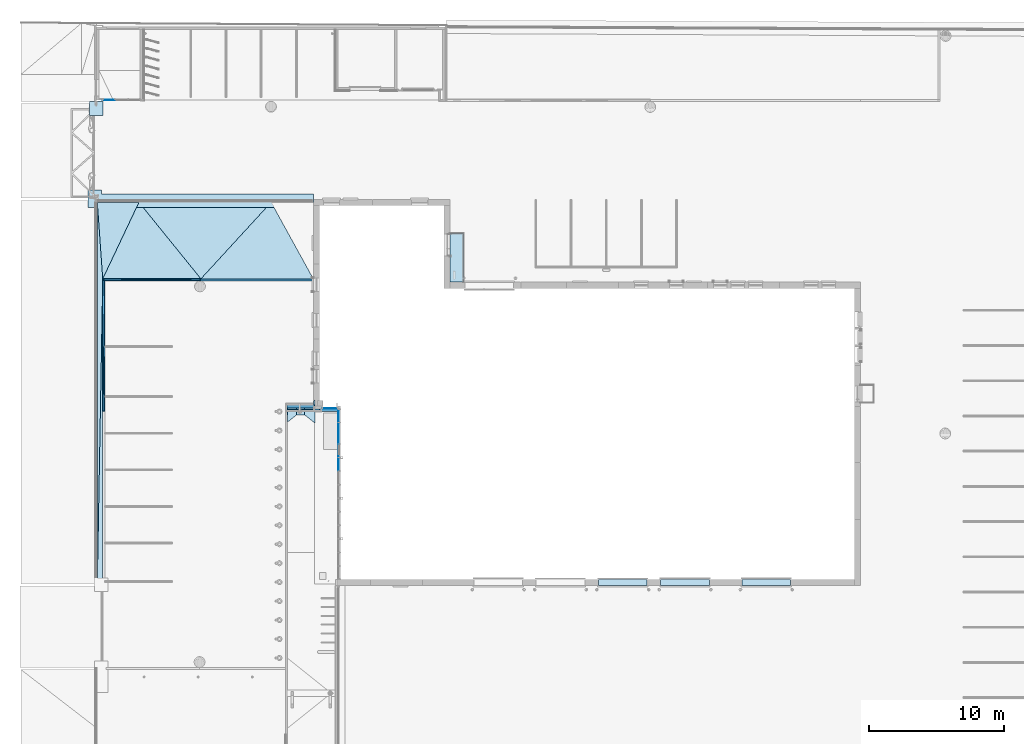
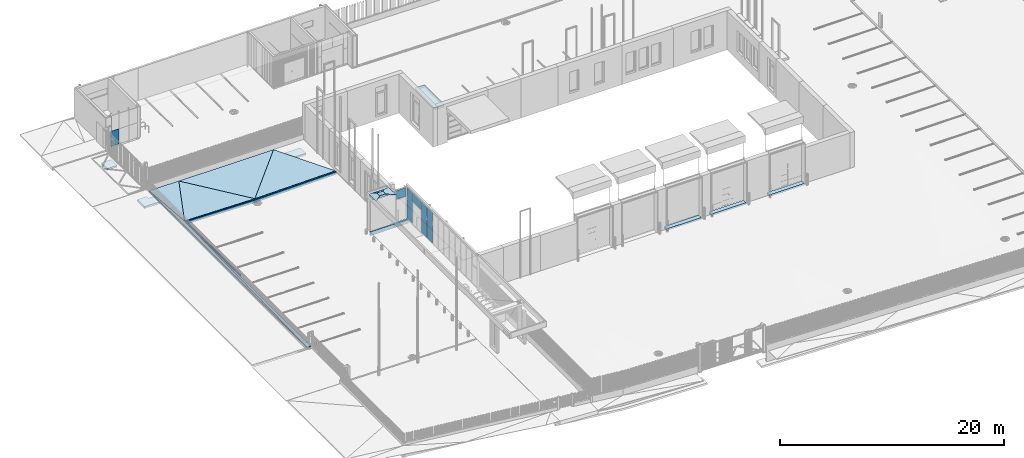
# One storey, part 9 of 77: 24 slabs, 6 plates, 11 elements without a shape of their own.
"""IFC2X3 building model written with IfcOpenShell, lengths in millimetres."""

from ifc_helpers import new_model, entity, si_unit, converted_unit, derived_unit, direction, frame, frame_2d, origin, origin_2d_with_axis, place, context, subcontext, project, spatial, polyline, rectangle, outline, extrude, clip, halfspace, faceted_brep, source, transform, mapped, material, material_list, layer, layer_set, layer_usage, type_object, type_shapes, element, aggregate, save


model = new_model("IFC2X3")

# Units and contexts
model_context = context("Model", 3, precision=0.01, world=origin(), true_north=direction((6.12303176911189e-17, 1.0)))
body_context = subcontext(model_context, "Body", "Model", "MODEL_VIEW")
ifc_project = project(units=[si_unit("LENGTHUNIT", "METRE", prefix="MILLI"), si_unit("AREAUNIT", "SQUARE_METRE"), si_unit("VOLUMEUNIT", "CUBIC_METRE"), converted_unit("PLANEANGLEUNIT", "DEGREE", entity("IfcRatioMeasure", 0.0174532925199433), si_unit("PLANEANGLEUNIT", "RADIAN"), dimensions=[0, 0, 0, 0, 0, 0, 0]), si_unit("MASSUNIT", "GRAM", prefix="KILO"), derived_unit("MASSDENSITYUNIT", [(si_unit("MASSUNIT", "GRAM", prefix="KILO"), 1), (si_unit("LENGTHUNIT", "METRE"), -3)]), si_unit("TIMEUNIT", "SECOND"), si_unit("FREQUENCYUNIT", "HERTZ"), si_unit("THERMODYNAMICTEMPERATUREUNIT", "DEGREE_CELSIUS"), derived_unit("THERMALTRANSMITTANCEUNIT", [(si_unit("MASSUNIT", "GRAM", prefix="KILO"), 1), (si_unit("THERMODYNAMICTEMPERATUREUNIT", "KELVIN"), -1), (si_unit("TIMEUNIT", "SECOND"), -3)]), derived_unit("VOLUMETRICFLOWRATEUNIT", [(si_unit("LENGTHUNIT", "METRE"), 3), (si_unit("TIMEUNIT", "SECOND"), -1)]), si_unit("ELECTRICCURRENTUNIT", "AMPERE"), si_unit("ELECTRICVOLTAGEUNIT", "VOLT"), si_unit("POWERUNIT", "WATT"), si_unit("FORCEUNIT", "NEWTON", prefix="KILO"), si_unit("ILLUMINANCEUNIT", "LUX"), si_unit("LUMINOUSFLUXUNIT", "LUMEN"), si_unit("LUMINOUSINTENSITYUNIT", "CANDELA"), derived_unit("USERDEFINED", [(si_unit("MASSUNIT", "GRAM", prefix="KILO"), -1), (si_unit("LENGTHUNIT", "METRE"), -2), (si_unit("TIMEUNIT", "SECOND"), 3), (si_unit("LUMINOUSFLUXUNIT", "LUMEN"), 1)]), derived_unit("LINEARVELOCITYUNIT", [(si_unit("LENGTHUNIT", "METRE"), 1), (si_unit("TIMEUNIT", "SECOND"), -1)]), si_unit("PRESSUREUNIT", "PASCAL"), derived_unit("USERDEFINED", [(si_unit("LENGTHUNIT", "METRE"), -2), (si_unit("MASSUNIT", "GRAM", prefix="KILO"), 1), (si_unit("TIMEUNIT", "SECOND"), -2)])], contexts=[model_context])

# Site, building, storey
site_placement = place(None, origin())
site = spatial("IfcSite", under=ifc_project, at=site_placement, Name="Default", CompositionType="ELEMENT")
building_placement = place(site_placement, origin())
building = spatial("IfcBuilding", under=site, at=building_placement, CompositionType="ELEMENT")
storey_placement = place(building_placement, origin())
storey = spatial("IfcBuildingStorey", under=building, at=storey_placement, Name="1. KORRUS", CompositionType="ELEMENT", Elevation=0.0)

# Curtain wall, plates
curtain_wall_type_1 = type_object("IfcCurtainWallType", Name="Curtain Wall:KF01", PredefinedType="NOTDEFINED")
curtain_wall_1_placement = place(storey_placement, origin())
curtain_wall_1 = element("IfcCurtainWall", 1, at=curtain_wall_1_placement, inside=storey, type_object=curtain_wall_type_1, Name="Curtain Wall:KF01", ObjectType="Curtain Wall:KF01")
ifc_material_1 = material(Name="<Unnamed>")
ifc_layer_1 = layer(ifc_material_1, 52.8)
ifc_layer_set_1 = layer_set([ifc_layer_1], Name="Curtain Wall:KF01")
ifc_layer_usage_1 = layer_usage(ifc_layer_set_1, "AXIS3", "POSITIVE", 0.190288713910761)
plate_type_1 = type_object("IfcPlateType", Name="kf-klaaspakett", PredefinedType="CURTAIN_PANEL", material=ifc_layer_set_1)
shared_shape_1 = source(origin(), body_context, "Body", "SweptSolid", [
    extrude(rectangle(XDim=3300.0, YDim=950.0, at=frame_2d((-256.25, 0.0), x_axis=(1.0, 0.0))), frame((0.0, 31.6000000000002, 1906.25), z_axis=(0.0, 1.0, 0.0), x_axis=(0.0, 0.0, 1.0)), (0.0, 0.0, 1.0), 52.8),
])
type_shapes(plate_type_1, [shared_shape_1])
plate_1_placement = place(curtain_wall_1_placement, frame((1460.00453708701, 8500.0, 50.0), z_axis=(0.0, 0.0, 1.0), x_axis=(0.0, 1.0, 0.0)))
plate_1 = element("IfcPlate", 2, at=plate_1_placement, type_object=plate_type_1, material=ifc_layer_usage_1, Name="System Panel:kf-klaaspakett", ObjectType="kf-klaaspakett", context=body_context, shape_type="MappedRepresentation", body=[
    mapped(shared_shape_1, transform((0.0, 0.0, 0.0), scale=1.0)),
])
ifc_layer_usage_2 = layer_usage(ifc_layer_set_1, "AXIS3", "POSITIVE", 0.190288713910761)
plate_2_placement = place(curtain_wall_1_placement, frame((1460.00453708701, 9500.0, 50.0), z_axis=(0.0, 0.0, 1.0), x_axis=(0.0, 1.0, 0.0)))
plate_2 = element("IfcPlate", 3, at=plate_2_placement, type_object=plate_type_1, material=ifc_layer_usage_2, Name="System Panel:kf-klaaspakett", ObjectType="kf-klaaspakett", context=body_context, shape_type="MappedRepresentation", body=[
    mapped(shared_shape_1, transform((0.0, 0.0, 0.0), scale=1.0)),
])
ifc_layer_usage_3 = layer_usage(ifc_layer_set_1, "AXIS3", "POSITIVE", 0.190288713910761)
plate_type_2 = type_object("IfcPlateType", Name="kf-klaaspakett", PredefinedType="CURTAIN_PANEL", material=ifc_layer_set_1)
shared_shape_2 = source(origin(), body_context, "Body", "SweptSolid", [
    extrude(rectangle(XDim=3300.0, YDim=919.999999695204, at=frame_2d((-256.25, 0.0), x_axis=(1.0, 0.0))), frame((0.0, 31.6, 1906.25), z_axis=(0.0, 1.0, 0.0), x_axis=(0.0, 0.0, 1.0)), (0.0, 0.0, 1.0), 52.8),
])
type_shapes(plate_type_2, [shared_shape_2])
plate_3_placement = place(curtain_wall_1_placement, frame((1460.00453708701, 12085.0, 50.0), z_axis=(0.0, 0.0, 1.0), x_axis=(0.0, 1.0, 0.0)))
plate_3 = element("IfcPlate", 4, at=plate_3_placement, type_object=plate_type_2, material=ifc_layer_usage_3, Name="System Panel:kf-klaaspakett", ObjectType="kf-klaaspakett", context=body_context, shape_type="MappedRepresentation", body=[
    mapped(shared_shape_2, transform((0.0, 0.0, 0.0), scale=1.0)),
])
ifc_layer_usage_4 = layer_usage(ifc_layer_set_1, "AXIS3", "POSITIVE", 0.190288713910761)
plate_type_3 = type_object("IfcPlateType", Name="kf-klaaspakett", PredefinedType="CURTAIN_PANEL", material=ifc_layer_set_1)
shared_shape_3 = source(origin(), body_context, "Body", "SweptSolid", [
    extrude(rectangle(XDim=52.8, YDim=1550.0, at=frame_2d((5.32907051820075e-15, 0.0), x_axis=(1.0, 0.0))), frame((0.0, 58.0, 0.0), z_axis=(0.0, 0.0, 1.0), x_axis=(0.0, 1.0, 0.0)), (0.0, 0.0, 1.0), 925.0),
])
type_shapes(plate_type_3, [shared_shape_3])
plate_4_placement = place(curtain_wall_1_placement, frame((1460.00453708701, 10800.0, 2425.0), z_axis=(0.0, 0.0, 1.0), x_axis=(0.0, 1.0, 0.0)))
plate_4 = element("IfcPlate", 5, at=plate_4_placement, type_object=plate_type_3, material=ifc_layer_usage_4, Name="System Panel:kf-klaaspakett", ObjectType="kf-klaaspakett", context=body_context, shape_type="MappedRepresentation", body=[
    mapped(shared_shape_3, transform((0.0, 0.0, 0.0), scale=1.0)),
])
aggregate(curtain_wall_1, [plate_1, plate_2, plate_3, plate_4])

# Curtain wall, plate
curtain_wall_2_placement = place(storey_placement, origin())
curtain_wall_2 = element("IfcCurtainWall", 6, at=curtain_wall_2_placement, inside=storey, type_object=curtain_wall_type_1, Name="Curtain Wall:KF01", ObjectType="Curtain Wall:KF01")
ifc_layer_usage_5 = layer_usage(ifc_layer_set_1, "AXIS3", "POSITIVE", 0.190288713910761)
plate_type_4 = type_object("IfcPlateType", Name="kf-klaaspakett", PredefinedType="CURTAIN_PANEL", material=ifc_layer_set_1)
shared_shape_4 = source(origin(), body_context, "Body", "SweptSolid", [
    extrude(rectangle(XDim=52.8, YDim=1049.99999999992, at=origin_2d_with_axis()), frame((0.0, -58.0, 0.0), z_axis=(0.0, 0.0, 1.0), x_axis=(0.0, 1.0, 0.0)), (0.0, 0.0, 1.0), 925.0),
])
type_shapes(plate_type_4, [shared_shape_4])
plate_5_placement = place(curtain_wall_2_placement, frame((775.0, 12675.0, 2425.0)))
plate_5 = element("IfcPlate", 7, at=plate_5_placement, type_object=plate_type_4, material=ifc_layer_usage_5, Name="System Panel:kf-klaaspakett", ObjectType="kf-klaaspakett", context=body_context, shape_type="MappedRepresentation", body=[
    mapped(shared_shape_4, transform((0.0, 0.0, 0.0), scale=1.0)),
])
aggregate(curtain_wall_2, [plate_5])

curtain_wall_type_2 = type_object("IfcCurtainWallType", Name="Curtain Wall:võresein VP1", PredefinedType="NOTDEFINED")
curtain_wall_3_placement = place(storey_placement, origin())
curtain_wall_3 = element("IfcCurtainWall", 8, at=curtain_wall_3_placement, inside=storey, type_object=curtain_wall_type_2, Name="Curtain Wall:võresein VP1", ObjectType="Curtain Wall:võresein VP1")
ifc_material_2 = material(Name="venitatud lehtvõrk R1,5/2,5L, must")
ifc_material_3 = material(Name="teras, võrkpaneeli raam")
ifc_material_list_1 = material_list([ifc_material_2, ifc_material_3])
ifc_material_list_2 = material_list([ifc_material_2, ifc_material_3])
plate_type_5 = type_object("IfcPlateType", Name="võrkpaneel", PredefinedType="CURTAIN_PANEL", material=ifc_material_list_2)
shared_shape_5 = source(origin(), body_context, "Body", "Brep", [
    faceted_brep([(873.0, 8.0, 1655.5), (873.0, 8.0, 2.0), (2.0, 8.0, 2.0), (2.0, 8.0, 1655.5), (873.0, 2.0, 1655.5), (2.0, 2.0, 1655.5), (2.0, 2.0, 2.0), (873.0, 2.0, 2.0)], [[[0, 1, 2, 3]], [[4, 5, 6, 7]], [[3, 5, 4, 0]], [[2, 6, 5, 3]], [[1, 7, 6, 2]], [[0, 4, 7, 1]]]),
    faceted_brep([(30.0, 2.0, 30.0), (30.0, 2.0, 1625.0), (30.0, 0.0, 1625.0), (30.0, 0.0, 30.0), (2.0, 30.0, 2.0), (2.0, 30.0, 1653.0), (2.0, 2.0, 1653.0), (2.0, 2.0, 2.0), (0.0, 0.0, 0.0), (0.0, 0.0, 1655.0), (0.0, 30.0, 1655.0), (0.0, 30.0, 0.0), (845.0, 2.0, 1625.0), (845.0, 0.0, 1625.0), (873.0, 30.0, 1653.0), (873.0, 2.0, 1653.0), (875.0, 0.0, 1655.0), (875.0, 30.0, 1655.0), (845.0, 2.0, 30.0), (845.0, 0.0, 30.0), (873.0, 30.0, 2.0), (873.0, 2.0, 2.0), (875.0, 0.0, 0.0), (875.0, 30.0, 0.0)], [[[0, 1, 2, 3]], [[4, 5, 6, 7]], [[8, 9, 10, 11]], [[1, 12, 13, 2]], [[5, 14, 15, 6]], [[9, 16, 17, 10]], [[12, 18, 19, 13]], [[14, 20, 21, 15]], [[16, 22, 23, 17]], [[18, 0, 3, 19]], [[1, 0, 18, 12], [7, 6, 15, 21]], [[20, 4, 7, 21]], [[5, 4, 20, 14], [11, 10, 17, 23]], [[22, 8, 11, 23]], [[3, 2, 13, 19], [9, 8, 22, 16]]], outer=[[True], [True], [True], [True], [True], [True], [True], [True], [True], [True], [False, True], [True], [False, True], [True], [False, True]]),
])
type_shapes(plate_type_5, [shared_shape_5])
plate_6_placement = place(curtain_wall_3_placement, frame((-15997.7351867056, 35390.0994344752, 52.5)))
plate_6 = element("IfcPlate", 9, at=plate_6_placement, type_object=plate_type_5, material=ifc_material_list_1, Name="võrkpaneel:võrkpaneel", ObjectType="võrkpaneel", context=body_context, shape_type="MappedRepresentation", body=[
    mapped(shared_shape_5, transform((0.0, 0.0, 0.0), scale=1.0)),
])
aggregate(curtain_wall_3, [plate_6])

# Roof, slab
roof_1_placement = place(storey_placement, frame((9650.0, 21950.0517807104, 3200.0)))
roof_1 = element("IfcRoof", 10, at=roof_1_placement, inside=storey, Name="Basic Roof:varikatus_al", ObjectType="Basic Roof:varikatus_al", ShapeType="NOTDEFINED")
ifc_material_4 = material(Name="Õhkvahe- hor roovid")
ifc_layer_2 = layer(ifc_material_4, 20.0)
ifc_material_5 = material(Name="Must-al-komposiitplaat")
ifc_layer_3 = layer(ifc_material_5, 4.0)
ifc_layer_set_2 = layer_set([ifc_layer_2, ifc_layer_3], Name="Basic Roof:varikatus_al")
slab_1_placement = place(roof_1_placement, origin())
slab_1 = element("IfcSlab", 11, at=slab_1_placement, material=ifc_layer_set_2, Name="Basic Roof:varikatus_al", ObjectType="Basic Roof:varikatus_al", PredefinedType="ROOF", context=body_context, shape_type="SweptSolid", body=[
    extrude(rectangle(XDim=1000.0, YDim=3609.94409453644, at=origin_2d_with_axis()), frame((500.0, 1804.97204726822, 0.0)), (0.0, 0.0, 1.0), 24.0),
])
aggregate(roof_1, [slab_1])

# Roof, slabs
roof_2_placement = place(storey_placement, frame((-2375.0, -12325.0, 3550.0)))
roof_2 = element("IfcRoof", 12, at=roof_2_placement, inside=storey, Name="Basic Roof:varikatus_pvc-betoon", ObjectType="Basic Roof:varikatus_pvc-betoon", ShapeType="NOTDEFINED")
ifc_material_6 = material(Name="pvc-katusekate")
ifc_layer_4 = layer(ifc_material_6, 5.0)
ifc_material_7 = material(Name="r/b")
ifc_layer_5 = layer(ifc_material_7, 220.0)
ifc_layer_set_3 = layer_set([ifc_layer_4, ifc_layer_5], Name="Basic Roof:varikatus_pvc-betoon")
slab_2_placement = place(roof_2_placement, origin())
slab_2 = element("IfcSlab", 13, at=slab_2_placement, material=ifc_layer_set_3, Name="Basic Roof:varikatus_pvc-betoon", ObjectType="Basic Roof:varikatus_pvc-betoon", PredefinedType="ROOF", context=body_context, shape_type="SweptSolid", body=[
    extrude(outline(polyline([(-1012.5, -112.508675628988), (1012.49999506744, -112.502979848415), (1012.5, 112.508675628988), (-1012.5, 112.508675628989), (-1012.5, -112.508675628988)])), frame((1012.5, 25087.5000352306, 1.39999562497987), z_axis=(3.50028874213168e-08, -0.0124434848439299, 0.999922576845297), x_axis=(1.0, 0.0, -3.50001773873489e-08)), (-3.50001773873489e-08, 0.01244348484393, 0.999922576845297), 225.0),
])
slab_3_placement = place(roof_2_placement, origin())
slab_3 = element("IfcSlab", 14, at=slab_3_placement, material=ifc_layer_set_3, Name="Basic Roof:varikatus_pvc-betoon", ObjectType="Basic Roof:varikatus_pvc-betoon", PredefinedType="ROOF", context=body_context, shape_type="SweptSolid", body=[
    extrude(outline(polyline([(-1012.5, -250.002883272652), (1012.5, -250.002883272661), (1012.5, 250.002882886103), (-1012.5, 249.997187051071), (-1012.5, -250.002883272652)])), frame((1012.5, 24725.0028832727, 0.0)), (0.0, 0.0, 1.0), 225.0),
])
aggregate(roof_2, [slab_2, slab_3])

# Roof, slab
roof_3_placement = place(storey_placement, frame((-2360.0, 11610.0000384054, 3735.0)))
roof_3 = element("IfcRoof", 15, at=roof_3_placement, inside=storey, Name="Basic Roof:varikatus_pvc-vastukalle", ObjectType="Basic Roof:varikatus_pvc-vastukalle", ShapeType="NOTDEFINED")
ifc_layer_6 = layer(ifc_material_6, 5.0)
ifc_layer_7 = layer(ifc_material_7, 35.0)
ifc_layer_set_4 = layer_set([ifc_layer_6, ifc_layer_7], Name="Basic Roof:varikatus_pvc-vastukalle")
slab_4_placement = place(roof_3_placement, origin())
slab_4 = element("IfcSlab", 16, at=slab_4_placement, material=ifc_layer_set_4, Name="Basic Roof:varikatus_pvc-vastukalle", ObjectType="Basic Roof:varikatus_pvc-vastukalle", PredefinedType="ROOF", context=body_context, shape_type="SweptSolid", body=[
    extrude(outline(polyline([(520.441827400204, -126.332693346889), (520.441827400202, 373.66731274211), (257.927831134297, 583.668009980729), (-154.591866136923, 583.668009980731), (-154.591866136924, -666.332648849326), (520.441827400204, -126.332693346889)])), frame((154.584137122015, 666.332648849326, 5.20415850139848), z_axis=(0.00999950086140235, 0.0, 0.999950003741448), x_axis=(0.999950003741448, 0.0, -0.00999950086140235)), (-0.00999950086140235, 0.0, 0.999950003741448), 40.0000000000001),
])
aggregate(roof_3, [slab_4])

roof_4_placement = place(storey_placement, frame((9630.0, 21950.0517807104, 3401.0)))
roof_4 = element("IfcRoof", 17, at=roof_4_placement, inside=storey, Name="Basic Roof:varikatus_al yleval", ObjectType="Basic Roof:varikatus_al yleval", ShapeType="NOTDEFINED")
ifc_layer_8 = layer(ifc_material_5, 4.0)
ifc_layer_9 = layer(ifc_material_4, 20.0)
ifc_layer_set_5 = layer_set([ifc_layer_8, ifc_layer_9], Name="Basic Roof:varikatus_al yleval")
slab_5_placement = place(roof_4_placement, origin())
slab_5 = element("IfcSlab", 18, at=slab_5_placement, material=ifc_layer_set_5, Name="Basic Roof:varikatus_al yleval", ObjectType="Basic Roof:varikatus_al yleval", PredefinedType="ROOF", context=body_context, shape_type="SweptSolid", body=[
    extrude(rectangle(XDim=1020.14022384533, YDim=3609.94409453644, at=frame_2d((-5.40012479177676e-13, 0.0), x_axis=(1.0, 0.0))), frame((510.0, 1804.97204726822, 8.45689522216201), z_axis=(0.0165798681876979, 0.0, 0.999862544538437), x_axis=(0.999862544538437, 0.0, -0.0165798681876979)), (-0.0165798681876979, 0.0, 0.999862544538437), 24.0032993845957),
])
aggregate(roof_4, [slab_5])

roof_5_placement = place(storey_placement, frame((-1089.99994437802, 11538.0000384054, 3735.0)))
roof_5 = element("IfcRoof", 19, at=roof_5_placement, inside=storey, Name="Basic Roof:varikatus_pvc-vastukalle", ObjectType="Basic Roof:varikatus_pvc-vastukalle", ShapeType="NOTDEFINED")
slab_6_placement = place(roof_5_placement, origin())
slab_6 = element("IfcSlab", 20, at=slab_6_placement, material=ifc_layer_set_4, Name="Basic Roof:varikatus_pvc-vastukalle", ObjectType="Basic Roof:varikatus_pvc-vastukalle", PredefinedType="ROOF", context=body_context, shape_type="SweptSolid", body=[
    extrude(outline(polyline([(83.9858098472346, 929.185247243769), (-41.0204399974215, 829.185247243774), (-41.0204399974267, 527.185988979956), (-418.538387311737, 527.185988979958), (-681.052383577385, 317.185291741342), (-681.052383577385, -182.814714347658), (83.9858098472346, -794.814669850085), (83.9858098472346, 929.185247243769)])), frame((681.018333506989, 794.814669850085, 6.81018383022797), z_axis=(-0.00999950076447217, 0.0, 0.999950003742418), x_axis=(0.999950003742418, 0.0, 0.00999950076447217)), (0.00999950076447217, 0.0, 0.999950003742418), 40.0000000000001),
])
aggregate(roof_5, [slab_6])

# Slabs
ifc_layer_10 = layer(ifc_material_7, 200.0)
ifc_layer_set_6 = layer_set([ifc_layer_10], Name="Floor:PP-1 serv")
ifc_layer_usage_6 = layer_usage(ifc_layer_set_6, "AXIS3", "POSITIVE", 0.0)
slab_7_placement = place(storey_placement, origin())
element("IfcSlab", 21, at=slab_7_placement, inside=storey, material=ifc_layer_usage_6, Name="Floor:PP-1 serv", ObjectType="Floor:PP-1 serv", PredefinedType="FLOOR", context=body_context, shape_type="Clipping", body=[
    clip(clip(extrude(rectangle(XDim=430.464865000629, YDim=3599.99999999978, at=origin_2d_with_axis()), frame((22400.0316629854, -215.0, -10.0), z_axis=(0.0, 0.0464613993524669, -0.998920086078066), x_axis=(0.0, 0.998920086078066, 0.0464613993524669)), (-0.0464613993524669, 0.0, 0.998920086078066), 200.216216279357), halfspace(frame((24200.0316629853, 1.0, -200.0), z_axis=(0.0, 0.0, -1.0), x_axis=(0.0, -1.0, 0.0)), False)), halfspace(frame((22400.0316629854, -215.0, -10.0), z_axis=(0.0, -0.0464613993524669, 0.998920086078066), x_axis=(0.0, -0.998920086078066, -0.0464613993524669)), False)),
])
ifc_layer_usage_7 = layer_usage(ifc_layer_set_6, "AXIS3", "POSITIVE", 0.0)
slab_8_placement = place(storey_placement, origin())
element("IfcSlab", 22, at=slab_8_placement, inside=storey, material=ifc_layer_usage_7, Name="Floor:PP-1 serv", ObjectType="Floor:PP-1 serv", PredefinedType="FLOOR", context=body_context, shape_type="Clipping", body=[
    clip(clip(extrude(rectangle(XDim=430.464865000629, YDim=3599.99999999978, at=frame_2d((1.4210854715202e-14, -4.32009983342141e-12), x_axis=(1.0, 0.0))), frame((27000.0316629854, -215.0, -10.0), z_axis=(0.0, 0.0464613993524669, -0.998920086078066), x_axis=(0.0, 0.998920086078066, 0.0464613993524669)), (-0.0464613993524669, 0.0, 0.998920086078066), 200.216216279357), halfspace(frame((28800.0316629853, 1.0, -200.0), z_axis=(0.0, 0.0, -1.0), x_axis=(0.0, -1.0, 0.0)), False)), halfspace(frame((27000.0316629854, -215.0, -10.0), z_axis=(0.0, -0.0464613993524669, 0.998920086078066), x_axis=(0.0, -0.998920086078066, -0.0464613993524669)), False)),
])
ifc_layer_usage_8 = layer_usage(ifc_layer_set_6, "AXIS3", "POSITIVE", 0.0)
slab_9_placement = place(storey_placement, origin())
element("IfcSlab", 23, at=slab_9_placement, inside=storey, material=ifc_layer_usage_8, Name="Floor:PP-1 serv", ObjectType="Floor:PP-1 serv", PredefinedType="FLOOR", context=body_context, shape_type="Clipping", body=[
    clip(clip(extrude(rectangle(XDim=430.464865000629, YDim=3599.99999999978, at=origin_2d_with_axis()), frame((33000.0316629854, -215.0, -10.0), z_axis=(0.0, 0.0464613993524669, -0.998920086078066), x_axis=(0.0, 0.998920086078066, 0.0464613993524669)), (-0.0464613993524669, 0.0, 0.998920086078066), 200.216216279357), halfspace(frame((34800.0316629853, 1.0, -200.0), z_axis=(0.0, 0.0, -1.0), x_axis=(0.0, -1.0, 0.0)), False)), halfspace(frame((33000.0316629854, -215.0, -10.0), z_axis=(0.0, -0.0464613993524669, 0.998920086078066), x_axis=(0.0, -0.998920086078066, -0.0464613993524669)), False)),
])

slab_10_placement = place(storey_placement, frame((-16400.0, -350.0, -300.0)))
slab_10 = element("IfcSlab", 24, at=slab_10_placement, inside=storey, Name="Floor:Muru", ObjectType="Floor:Muru", PredefinedType="NOTDEFINED")
slab_11_placement = place(slab_10_placement, origin())
slab_11 = element("IfcSlab", 25, at=slab_11_placement, Name="Floor:Muru", ObjectType="Floor:Muru", PredefinedType="NOTDEFINED", context=body_context, shape_type="SweptSolid", body=[
    extrude(outline(polyline([(4740.37151915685, -1070.49869436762), (1626.79292047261, 4579.37052313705), (-3560.25432005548, -1070.93041202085), (4740.37151915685, -1070.49869436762)])), frame((11210.2098731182, 23620.7393379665, 209.31465838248), z_axis=(-0.0156613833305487, -0.00332049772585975, 0.999871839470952), x_axis=(0.999877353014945, -5.20099665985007e-05, 0.0156612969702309)), (-0.0156612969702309, -0.0033209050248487, -0.999871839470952), 150.0),
])
slab_12_placement = place(slab_10_placement, origin())
slab_12 = element("IfcSlab", 26, at=slab_12_placement, Name="Floor:Muru", ObjectType="Floor:Muru", PredefinedType="NOTDEFINED", context=body_context, shape_type="SweptSolid", body=[
    extrude(outline(polyline([(-200.359888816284, 14100.003546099), (-200.35988881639, -14100.0035460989), (200.359888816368, 8450.01915144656), (-200.359888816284, 14100.003546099)])), frame((200.0, 14099.9914868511, 277.996459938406), z_axis=(0.0599099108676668, 0.000707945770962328, 0.998203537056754), x_axis=(0.998203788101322, -4.24892878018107e-05, -0.0599098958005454)), (0.0599098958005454, 0.000709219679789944, -0.998203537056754), 150.0),
])
slab_13_placement = place(slab_10_placement, origin())
slab_13 = element("IfcSlab", 27, at=slab_13_placement, Name="Floor:Muru", ObjectType="Floor:Muru", PredefinedType="NOTDEFINED", context=body_context, shape_type="SweptSolid", body=[
    extrude(outline(polyline([(-1729.41286807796, 2716.73617824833), (-1329.39381999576, -2933.29787131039), (1344.73230996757, 2716.6507115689), (-1729.41286807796, 2716.73617824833)])), frame((1729.33051700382, 25483.322927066, 255.383443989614), z_axis=(0.0097587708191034, -0.0028487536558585, 0.999948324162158), x_axis=(0.999952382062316, 2.78016579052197e-05, -0.00975873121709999)), (0.00975873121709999, -0.00284888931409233, -0.999948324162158), 150.0),
])
slab_14_placement = place(slab_10_placement, origin())
slab_14 = element("IfcSlab", 28, at=slab_14_placement, Name="Floor:Muru", ObjectType="Floor:Muru", PredefinedType="NOTDEFINED", context=body_context, shape_type="SweptSolid", body=[
    extrude(outline(polyline([(-200.0, -11275.0177383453), (200.0, -11275.0177383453), (200.0, 11275.0177383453), (-200.0, -11275.0177383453)])), frame((200.0, 11275.0, 280.0), z_axis=(0.0, 0.00177383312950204, 0.999998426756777), x_axis=(1.0, 0.0, 0.0)), (0.0, 0.00177383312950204, -0.999998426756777), 150.0),
])
slab_15_placement = place(slab_10_placement, origin())
slab_15 = element("IfcSlab", 29, at=slab_15_placement, Name="Floor:Muru", ObjectType="Floor:Muru", PredefinedType="NOTDEFINED", context=body_context, shape_type="SweptSolid", body=[
    extrude(outline(polyline([(-3625.84514852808, -2824.74375989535), (3625.3814241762, -2825.33889638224), (-951.538634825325, 2825.11944366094), (-3625.84514852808, -2824.74375989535)])), frame((4025.42793925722, 25375.0, 220.280893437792), z_axis=(0.0151696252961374, -0.00540970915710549, 0.999870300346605), x_axis=(0.999884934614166, 8.20727046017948e-05, -0.0151694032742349)), (0.0151694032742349, -0.00541033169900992, -0.999870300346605), 150.0),
])
slab_16_placement = place(slab_10_placement, origin())
slab_16 = element("IfcSlab", 30, at=slab_16_placement, Name="Floor:Muru", ObjectType="Floor:Muru", PredefinedType="NOTDEFINED", context=body_context, shape_type="SweptSolid", body=[
    extrude(outline(polyline([(-5236.14550325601, 438.033439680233), (-659.752089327, -5212.85144677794), (4526.6589754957, 438.033439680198), (-5236.14550325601, 438.033439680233)])), frame((8310.14429684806, 27762.035153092, 242.248409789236), z_axis=(0.0, -0.0176963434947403, 0.999843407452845), x_axis=(1.0, 0.0, 0.0)), (0.0, -0.0176963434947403, -0.999843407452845), 150.0),
])
aggregate(slab_10, [slab_11, slab_12, slab_13, slab_14, slab_15, slab_16])

slab_17_placement = place(storey_placement, frame((-15998.8939697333, -400.0, -470.0)))
slab_17 = element("IfcSlab", 31, at=slab_17_placement, inside=storey, Name="Floor:äärekivi", ObjectType="Floor:äärekivi", PredefinedType="NOTDEFINED")
slab_18_placement = place(slab_17_placement, origin())
slab_18 = element("IfcSlab", 32, at=slab_18_placement, Name="Floor:äärekivi", ObjectType="Floor:äärekivi", PredefinedType="NOTDEFINED", context=body_context, shape_type="SweptSolid", body=[
    extrude(rectangle(XDim=150.000000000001, YDim=8363.96077358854, at=frame_2d((4.54747350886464e-13, 0.0), x_axis=(0.0, 1.0))), frame((11367.5861652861, 22525.0, 375.0), z_axis=(-0.0179340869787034, 0.0, 0.99983917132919), x_axis=(0.99983917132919, 0.0, 0.0179340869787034)), (-0.0179340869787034, 0.0, -0.99983917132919), 300.0),
])
slab_19_placement = place(slab_17_placement, origin())
slab_19 = element("IfcSlab", 33, at=slab_19_placement, Name="Floor:äärekivi", ObjectType="Floor:äärekivi", PredefinedType="NOTDEFINED", context=body_context, shape_type="SweptSolid", body=[
    extrude(outline(polyline([(-3593.72686886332, -1.16699371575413), (-3444.80854625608, -151.142816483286), (3593.72686886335, 1.16699371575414), (-3593.72686886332, -1.16699371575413)])), frame((3593.13918041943, 22600.0, 365.0), z_axis=(0.0180841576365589, 0.0179508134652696, 0.999675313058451), x_axis=(0.999836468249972, -0.000324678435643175, -0.0180812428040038)), (0.0180812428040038, 0.0179537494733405, -0.999675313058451), 300.0),
])
slab_20_placement = place(slab_17_placement, origin())
slab_20 = element("IfcSlab", 34, at=slab_20_placement, Name="Floor:äärekivi", ObjectType="Floor:äärekivi", PredefinedType="NOTDEFINED", context=body_context, shape_type="SweptSolid", body=[
    extrude(outline(polyline([(-74.4501844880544, 4889.68922004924), (-74.4501844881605, -4889.68922004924), (74.4501844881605, 4739.69557237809), (-74.4501844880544, 4889.68922004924)])), frame((74.4469848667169, 17710.5115005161, 474.309801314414), z_axis=(0.00927100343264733, 0.00920264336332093, 0.999914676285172), x_axis=(0.999957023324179, -8.53214050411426e-05, -0.00927061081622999)), (0.00927061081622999, 0.00920303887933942, -0.999914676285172), 300.0),
])
slab_21_placement = place(slab_17_placement, origin())
slab_21 = element("IfcSlab", 35, at=slab_21_placement, Name="Floor:äärekivi", ObjectType="Floor:äärekivi", PredefinedType="NOTDEFINED", context=body_context, shape_type="SweptSolid", body=[
    extrude(outline(polyline([(-3519.2925094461, -75.0), (3519.2925094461, -75.0), (3519.2925094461, 75.0), (-3519.2925094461, -75.0)])), frame((3667.5861652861, 22525.0, 365.0), z_axis=(0.0184696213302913, 0.0, 0.99982942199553), x_axis=(0.99982942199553, 0.0, -0.0184696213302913)), (0.0184696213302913, 0.0, -0.99982942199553), 300.0),
])
slab_22_placement = place(slab_17_placement, origin())
slab_22 = element("IfcSlab", 36, at=slab_22_placement, Name="Floor:äärekivi", ObjectType="Floor:äärekivi", PredefinedType="NOTDEFINED", context=body_context, shape_type="SweptSolid", body=[
    extrude(outline(polyline([(-0.219340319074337, 4815.84697068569), (-149.113310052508, -4813.5379206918), (0.255043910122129, -4813.53792069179), (-0.219340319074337, 4815.84697068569)])), frame((149.113310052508, 17634.3633781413, 475.010790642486), z_axis=(0.0, 0.00934639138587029, 0.999956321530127), x_axis=(1.0, 0.0, 0.0)), (0.0, 0.00934639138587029, -0.999956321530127), 300.0),
])
aggregate(slab_17, [slab_18, slab_19, slab_20, slab_21, slab_22])

ifc_layer_11 = layer(ifc_material_7, 200.0)
ifc_layer_set_7 = layer_set([ifc_layer_11], Name="Floor:taldmik")
ifc_layer_usage_9 = layer_usage(ifc_layer_set_7, "AXIS3", "POSITIVE", 0.0)
slab_23_placement = place(storey_placement, frame((-17100.0, -23224.3932619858, -1500.0)))
element("IfcSlab", 37, at=slab_23_placement, inside=storey, material=ifc_layer_usage_9, Name="Floor:taldmik", ObjectType="Floor:taldmik", PredefinedType="FLOOR", context=body_context, shape_type="SweptSolid", body=[
    extrude(outline(polyline([(25135.5288215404, 18406.4460833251), (41785.5288215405, 18406.4460833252), (41785.5288215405, 19711.4797863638), (40785.5288215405, 19711.4797863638), (40785.5288215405, 19406.4460833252), (25135.5288215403, 19406.4460833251), (25135.5288215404, 18406.4460833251)])), frame((41785.5288215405, 32267.9471786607, 200.0), z_axis=(0.0, 0.0, -1.0), x_axis=(-1.0, 0.0, 0.0)), (0.0, 0.0, 1.0), 200.0),
])
slab_24_placement = place(storey_placement, frame((-17100.0, -23224.3932619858, -1500.0)))
element("IfcSlab", 38, at=slab_24_placement, inside=storey, material=ifc_layer_usage_9, Name="Floor:taldmik:2", ObjectType="Floor:taldmik", PredefinedType="FLOOR", context=body_context, shape_type="SweptSolid", body=[
    extrude(rectangle(XDim=1040.09999999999, YDim=1000.0, at=frame_2d((41175.4868470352, 25736.4955178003), x_axis=(0.0, -1.0))), frame((41785.5288215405, 32267.9471786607, 200.0), z_axis=(0.0, 0.0, -1.0), x_axis=(-1.0, 0.0, 0.0)), (0.0, 0.0, 1.0), 200.0),
])

slab_25_placement = place(storey_placement, frame((-2500.0, 12400.0, -450.0)))
slab_25 = element("IfcSlab", 39, at=slab_25_placement, inside=storey, Name="Floor:betoonkivisillutis", ObjectType="Floor:betoonkivisillutis", PredefinedType="NOTDEFINED")
slab_26_placement = place(slab_25_placement, origin())
slab_26 = element("IfcSlab", 40, at=slab_26_placement, Name="Floor:betoonkivisillutis", ObjectType="Floor:betoonkivisillutis", PredefinedType="NOTDEFINED", context=body_context, shape_type="SweptSolid", body=[
    extrude(outline(polyline([(-1250.02249979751, -100.0), (1250.0224997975, -100.0), (1250.0224997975, 100.0), (900.016199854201, 100.0), (900.016199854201, 50.0), (-1250.0224997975, 50.0), (-1250.02249979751, -100.0)])), frame((1250.0, 100.0, 417.5), z_axis=(-0.00599989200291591, 0.0, 0.999982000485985), x_axis=(0.999982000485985, 0.0, 0.00599989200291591)), (-0.00599989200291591, 0.0, -0.999982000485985), 410.0),
])
slab_27_placement = place(slab_25_placement, origin())
slab_27 = element("IfcSlab", 41, at=slab_27_placement, Name="Floor:betoonkivisillutis", ObjectType="Floor:betoonkivisillutis", PredefinedType="NOTDEFINED", context=body_context, shape_type="SweptSolid", body=[
    extrude(rectangle(XDim=1400.65687606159, YDim=200.000000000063, at=frame_2d((1.13686837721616e-13, -2.16715534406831e-12), x_axis=(1.0, 0.0))), frame((3200.32397582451, 100.0, 427.5), z_axis=(-0.00356975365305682, 0.0, 0.99999362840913), x_axis=(0.99999362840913, 0.0, 0.00356975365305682)), (-0.00356975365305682, 0.0, -0.99999362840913), 410.0),
])
aggregate(slab_25, [slab_26, slab_27])

save(model, "model.ifc")
